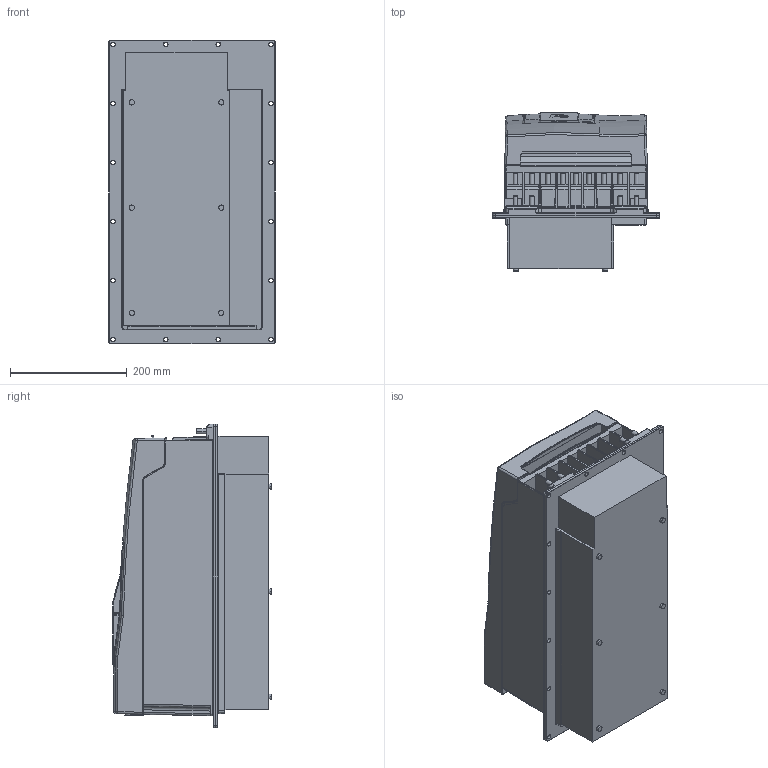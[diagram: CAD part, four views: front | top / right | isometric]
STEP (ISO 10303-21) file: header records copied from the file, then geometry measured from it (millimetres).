
FILE_DESCRIPTION (( 'STEP AP214' ), '1' );
FILE_NAME ('F6-6TR5-P150.STEP', '2020-12-09T12:33:58', ( '' ), ( '' ), 'SwSTEP 2.0', 'SolidWorks 2019', '' );
FILE_SCHEMA (( 'AUTOMOTIVE_DESIGN' ));
Length unit declared in the file: millimetre
Products named in the file (11): 10061939_000; 10059765_000; 10046128_000_Basis Leistungsteil F6-6 TR5 (Kundenmodell); 10051076_000_Kundenmodell; 10061793_000_Deckelbaugruppe F6-6 (Kundenmodell); 10059764_000_Blindabdeckung (Kundenmodell); 10060787_000; 10027052_000_Geh„usebaugruppe F6-6 (Kundenmodell); F6-6TR5-P150; 10059762_000_Kundenmodell mit Geberbuchsen; 10061794_000
Assembly tree (10 placements, depth 4):
  F6-6TR5-P150
    10046128_000_Basis Leistungsteil F6-6 TR5 (Kundenmodell)
      10061939_000
    10027052_000_Geh„usebaugruppe F6-6 (Kundenmodell)
      10061793_000_Deckelbaugruppe F6-6 (Kundenmodell)
        10061794_000
      10060787_000
    10051076_000_Kundenmodell
      10059764_000_Blindabdeckung (Kundenmodell)
        10059765_000
      10059762_000_Kundenmodell mit Geberbuchsen
Bounding box: 285 x 270.9 x 520 mm (x, y, z)
Volume: 25670664.5 mm3; surface area: 1330653.8 mm2
Topology: 12 solids, 19 shells, 2953 faces, 7397 edges, 4402 vertices
Faces by surface type: cylinder 1040, plane 936, bspline 624, torus 170, sphere 107, cone 76
Entity records: 99775 total; most frequent: CARTESIAN_POINT 34545, ORIENTED_EDGE 14482, DIRECTION 12583, EDGE_CURVE 7241, AXIS2_PLACEMENT_3D 4576, VERTEX_POINT 4400, LINE 3431, VECTOR 3431
